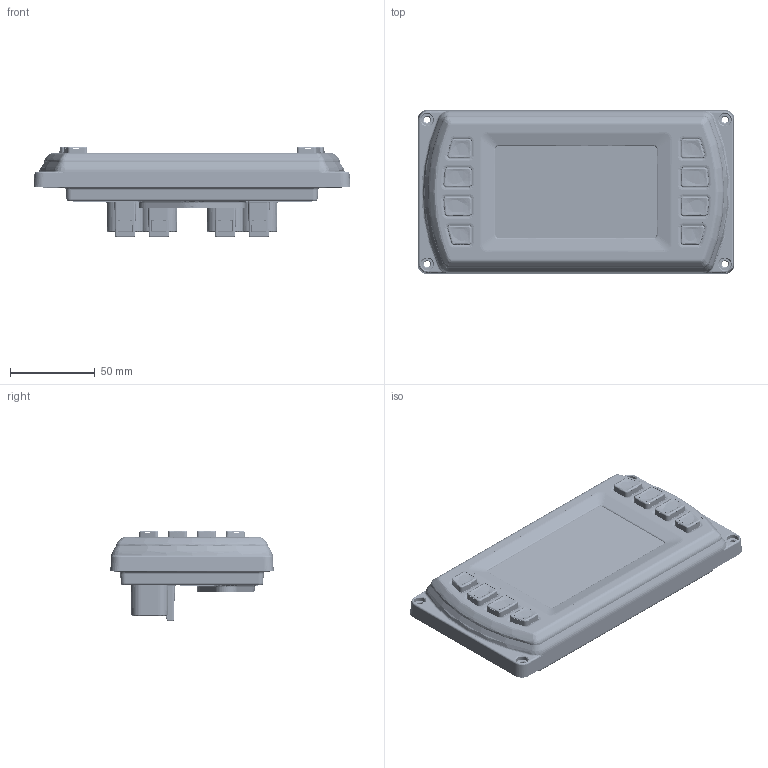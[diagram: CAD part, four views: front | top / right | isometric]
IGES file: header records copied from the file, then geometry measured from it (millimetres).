
Start section: SolidWorks IGES file using analytic representation for surfaces
Global section: file name: C:\Users\csiebert\Desktop\PV450.IGS; native system: SolidWorks 2015; preprocessor: SolidWorks 2015; author: csiebert; date: 160517.132329; units: millimetre
Bounding box: 186.84 x 96.5 x 52.96 mm (x, y, z)
Surface area: 68248.5 mm2 (no closed solid volume)
Topology: 0 solids, 0 shells, 8573 faces, 97505 edges, 120161 vertices
Faces by surface type: bspline 7891, revolution 682
